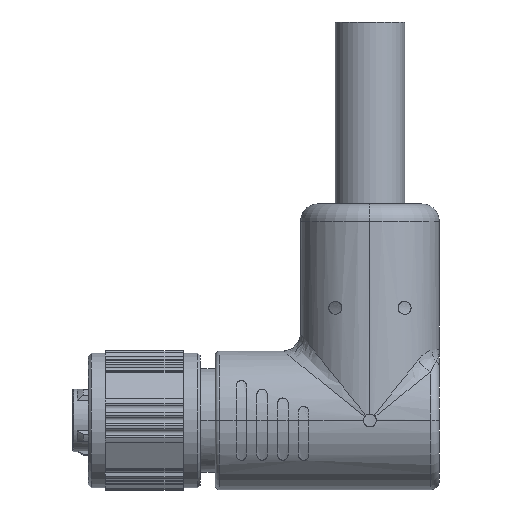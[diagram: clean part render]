
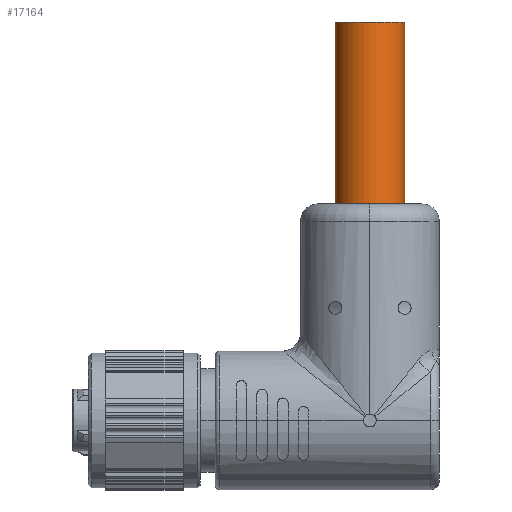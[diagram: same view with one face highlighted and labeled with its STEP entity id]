
A CAD part, left-side view. The second image highlights one B-rep face of the part: STEP entity #17164.
In plain terms, the highlighted cylindrical face has radius 4 mm (diameter 8 mm), a partial arc.
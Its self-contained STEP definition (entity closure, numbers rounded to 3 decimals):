
#1623=CARTESIAN_POINT('',(0.,-34.35,25.));
#1624=DIRECTION('',(0.,0.,1.));
#1625=DIRECTION('',(0.,1.,0.));
#1626=AXIS2_PLACEMENT_3D('',#1623,#1624,#1625);
#1639=DIRECTION('',(0.,0.,-1.));
#1640=VECTOR('',#1639,21.);
#1641=CARTESIAN_POINT('',(0.,-30.35,46.));
#1642=LINE('',#1641,#1640);
#1646=DIRECTION('',(0.,0.,-1.));
#1647=VECTOR('',#1646,21.);
#1648=CARTESIAN_POINT('',(0.,-38.35,46.));
#1649=LINE('',#1648,#1647);
#1661=CARTESIAN_POINT('',(0.,-34.35,46.));
#1662=DIRECTION('',(0.,0.,1.));
#1663=DIRECTION('',(0.,1.,0.));
#1664=AXIS2_PLACEMENT_3D('',#1661,#1662,#1663);
#15922=CARTESIAN_POINT('',(0.,-30.35,46.));
#15923=CARTESIAN_POINT('',(0.,-38.35,46.));
#15924=VERTEX_POINT('',#15922);
#15925=VERTEX_POINT('',#15923);
#15926=CARTESIAN_POINT('',(0.,-30.35,25.));
#15927=CARTESIAN_POINT('',(0.,-38.35,25.));
#15928=VERTEX_POINT('',#15926);
#15929=VERTEX_POINT('',#15927);
#17150=CARTESIAN_POINT('',(0.,-34.35,16.));
#17151=DIRECTION('',(0.,0.,1.));
#17152=DIRECTION('',(0.,-1.,0.));
#17153=AXIS2_PLACEMENT_3D('',#17150,#17151,#17152);
#17154=CYLINDRICAL_SURFACE('',#17153,4.);
#17155=ORIENTED_EDGE('',*,*,#17136,.F.);
#17157=ORIENTED_EDGE('',*,*,#17156,.F.);
#17159=ORIENTED_EDGE('',*,*,#17158,.T.);
#17161=ORIENTED_EDGE('',*,*,#17160,.T.);
#17162=EDGE_LOOP('',(#17155,#17157,#17159,#17161));
#17163=FACE_OUTER_BOUND('',#17162,.F.);
#17164=ADVANCED_FACE('',(#17163),#17154,.T.);
#1627=CIRCLE('',#1626,4.);
#1665=CIRCLE('',#1664,4.);
#17136=EDGE_CURVE('',#15928,#15929,#1627,.T.);
#17156=EDGE_CURVE('',#15924,#15928,#1642,.T.);
#17158=EDGE_CURVE('',#15924,#15925,#1665,.T.);
#17160=EDGE_CURVE('',#15925,#15929,#1649,.T.);
